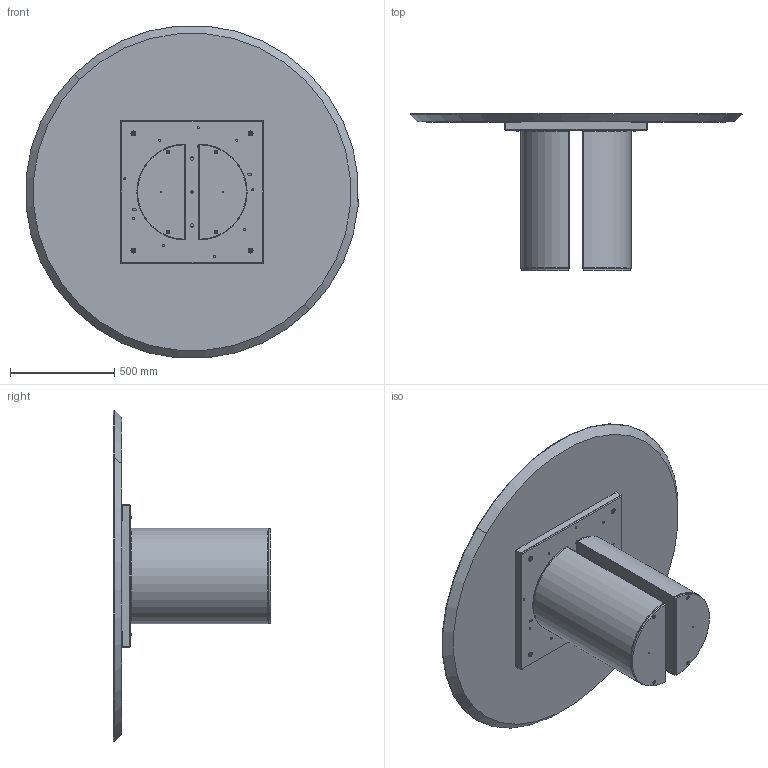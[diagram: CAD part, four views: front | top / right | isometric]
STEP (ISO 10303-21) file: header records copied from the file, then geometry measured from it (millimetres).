
FILE_DESCRIPTION (( 'STEP AP203' ), '1' );
FILE_NAME ('DR08W.STEP', '2024-08-06T13:01:51', ( '' ), ( '' ), 'SwSTEP 2.0', 'SolidWorks 2022', '' );
FILE_SCHEMA (( 'CONFIG_CONTROL_DESIGN' ));
Length unit declared in the file: millimetre
Products named in the file (13): COLLO TELAIO UNIVERSALE TTAV0801 CON FERRAMENTA_MTG TOP LEGNO-MARMO-KING; TTAV0801-02-TELAIO UNIVERSALE TONDO-VASSOIO; TTAV0801 TELAIO UNIVERSALE TONDO-PIASTRINA; Assieme Basamento PLAI_Basamento per tavoli; rondella M8_8X24; PLA000000BAS-00-PLAI BASE GREZZA; DR08W; PLA000000ZOC-01-PLAI ZOCCOLO DELLA BASE; M8xXXmm_hex_M8X60mm; M8xXXmm_hex_M8X20mm; TTAV0801-02-TELAIO UNIVERSALE TONDO; M8xXXmm_M8x55mm; W1XCMXX-00-Piani Rotondi legno_D.1600
Assembly tree (22 placements, depth 4):
  DR08W
    Assieme Basamento PLAI_Basamento per tavoli  x2
      PLA000000BAS-00-PLAI BASE GREZZA
      PLA000000ZOC-01-PLAI ZOCCOLO DELLA BASE
      M8xXXmm_hex_M8X60mm
      M8xXXmm_hex_M8X20mm
    COLLO TELAIO UNIVERSALE TTAV0801 CON FERRAMENTA_MTG TOP LEGNO-MARMO-KING
      TTAV0801-02-TELAIO UNIVERSALE TONDO
        TTAV0801-02-TELAIO UNIVERSALE TONDO-VASSOIO
        TTAV0801 TELAIO UNIVERSALE TONDO-PIASTRINA  x4
      rondella M8_8X24  x4
      M8xXXmm_M8x55mm  x4
    W1XCMXX-00-Piani Rotondi legno_D.1600
Bounding box: 1593.91 x 754 x 1593.91 mm (x, y, z)
Volume: 84882052.9 mm3; surface area: 9165726.4 mm2
Topology: 28 solids, 28 shells, 864 faces, 2142 edges, 1322 vertices
Faces by surface type: plane 406, cylinder 312, cone 90, torus 56
Entity records: 16513 total; most frequent: DIRECTION 2692, CARTESIAN_POINT 2592, ORIENTED_EDGE 2466, EDGE_CURVE 1233, AXIS2_PLACEMENT_3D 966, VERTEX_POINT 780, VECTOR 760, LINE 760
